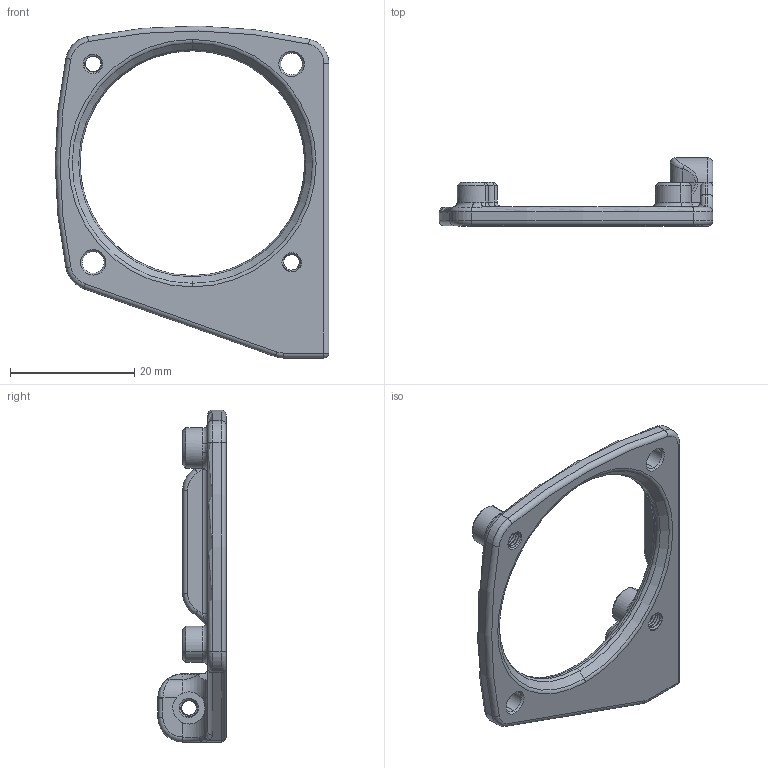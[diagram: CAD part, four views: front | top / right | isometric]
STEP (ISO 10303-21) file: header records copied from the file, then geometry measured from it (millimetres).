
FILE_DESCRIPTION(('CATIA V5 STEP Exchange'),'2;1');
FILE_NAME('E:\Dropbox\3D Printer Fan Duct Designs\1.) Artillery Sidewinder X1\3D Models\5015 Double Ducts\HEMERA MATRIX\Hemera ALL Step Files\Insert\Adapter Mounting Bracket Insert.stp','2022-01-10T00:58:45+00:00',('none'),('none'),'CATIA Version 5 Release 20 SP 1 (IN-10)','CATIA V5 STEP AP214','none');
FILE_SCHEMA(('AUTOMOTIVE_DESIGN { 1 0 10303 214 1 1 1 1 }'));
Length unit declared in the file: millimetre
Products named in the file (1): STAFFA_ADATTATORE
Bounding box: 44.13 x 11 x 53.54 mm (x, y, z)
Volume: 3650.1 mm3; surface area: 3636.6 mm2
Topology: 2 solids, 2 shells, 784 faces, 2059 edges, 1279 vertices
Faces by surface type: bspline 482, cylinder 199, torus 42, cone 39, plane 19, extrusion 2, sphere 1
Entity records: 27815 total; most frequent: CARTESIAN_POINT 14185, ORIENTED_EDGE 4112, EDGE_CURVE 2056, VERTEX_POINT 1279, DIRECTION 1072, B_SPLINE_CURVE_WITH_KNOTS 886, EDGE_LOOP 801, ADVANCED_FACE 784
